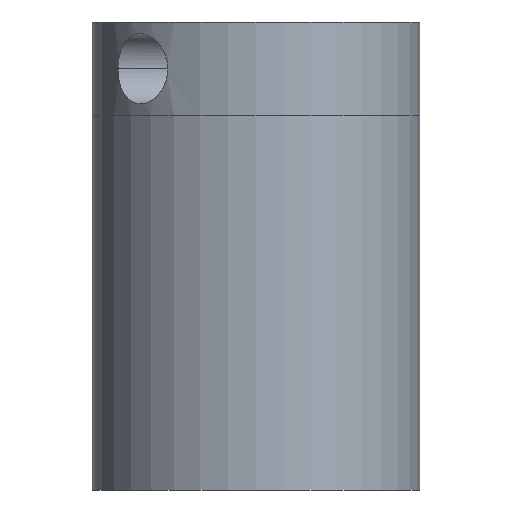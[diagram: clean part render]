
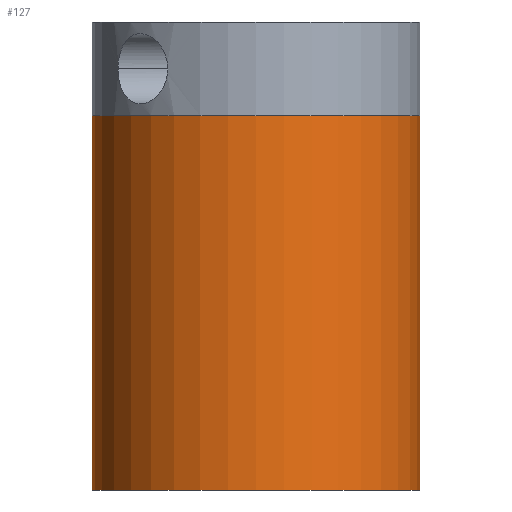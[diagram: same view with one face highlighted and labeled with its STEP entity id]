
A CAD part, front view. The second image highlights one B-rep face of the part: STEP entity #127.
In plain terms, the highlighted cylindrical face has radius 14 mm (diameter 28 mm), a partial arc.
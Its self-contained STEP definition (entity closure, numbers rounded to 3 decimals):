
#127=ADVANCED_FACE('',(#161),#147,.T.);
#147=CYLINDRICAL_SURFACE('',#416,14.);
#161=FACE_OUTER_BOUND('',#173,.T.);
#173=EDGE_LOOP('',(#221,#222,#223,#224));
#201=CIRCLE('',#414,14.);
#202=CIRCLE('',#415,14.);
#221=ORIENTED_EDGE('',*,*,#337,.T.);
#222=ORIENTED_EDGE('',*,*,#338,.F.);
#223=ORIENTED_EDGE('',*,*,#339,.F.);
#224=ORIENTED_EDGE('',*,*,#340,.T.);
#309=VERTEX_POINT('',#554);
#310=VERTEX_POINT('',#555);
#311=VERTEX_POINT('',#557);
#312=VERTEX_POINT('',#559);
#337=EDGE_CURVE('',#309,#310,#381,.T.);
#338=EDGE_CURVE('',#311,#310,#201,.T.);
#339=EDGE_CURVE('',#312,#311,#382,.T.);
#340=EDGE_CURVE('',#312,#309,#202,.T.);
#381=LINE('',#553,#397);
#382=LINE('',#558,#398);
#397=VECTOR('',#456,1.);
#398=VECTOR('',#459,1.);
#414=AXIS2_PLACEMENT_3D('',#556,#457,#458);
#415=AXIS2_PLACEMENT_3D('',#560,#460,#461);
#416=AXIS2_PLACEMENT_3D('',#561,#462,#463);
#456=DIRECTION('',(0.,0.,-1.));
#457=DIRECTION('',(0.,0.,-1.));
#458=DIRECTION('',(0.,1.,0.));
#459=DIRECTION('',(0.,0.,-1.));
#460=DIRECTION('',(0.,0.,-1.));
#461=DIRECTION('',(0.,1.,0.));
#462=DIRECTION('',(0.,0.,-1.));
#463=DIRECTION('',(0.,-1.,0.));
#553=CARTESIAN_POINT('',(-14.,0.,0.));
#554=CARTESIAN_POINT('',(-14.,0.,32.));
#555=CARTESIAN_POINT('',(-14.,0.,0.));
#556=CARTESIAN_POINT('',(0.,0.,0.));
#557=CARTESIAN_POINT('',(14.,0.,0.));
#558=CARTESIAN_POINT('',(14.,0.,0.));
#559=CARTESIAN_POINT('',(14.,0.,32.));
#560=CARTESIAN_POINT('',(0.,0.,32.));
#561=CARTESIAN_POINT('',(0.,0.,32.));
